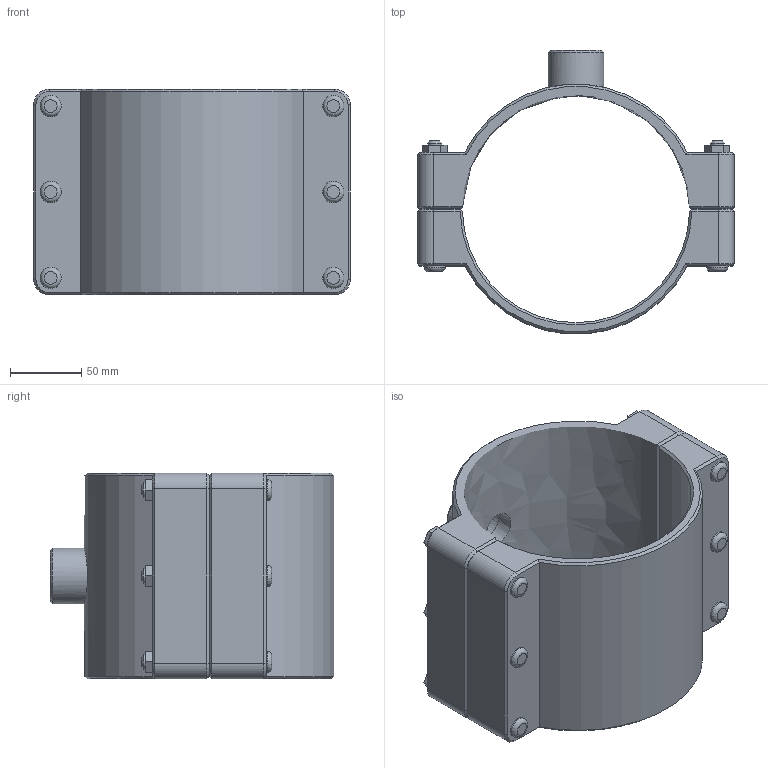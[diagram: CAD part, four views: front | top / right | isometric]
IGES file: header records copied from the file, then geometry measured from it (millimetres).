
Global section: file name: 160760160010_160860160010.ipt; native system: Autodesk Inventor 2015; preprocessor: unknown; author: KIM; date: 20170618.093604; units: millimetre
Bounding box: 223 x 199.69 x 145 mm (x, y, z)
Volume: 1235823.4 mm3; surface area: 206582.4 mm2
Topology: 1 solids, 1 shells, 169 faces, 394 edges, 249 vertices
Faces by surface type: plane 100, cylinder 29, cone 27, revolution 13
Full cylindrical faces by diameter (mm): 10 x6, 15 x12, 39.378 x1
